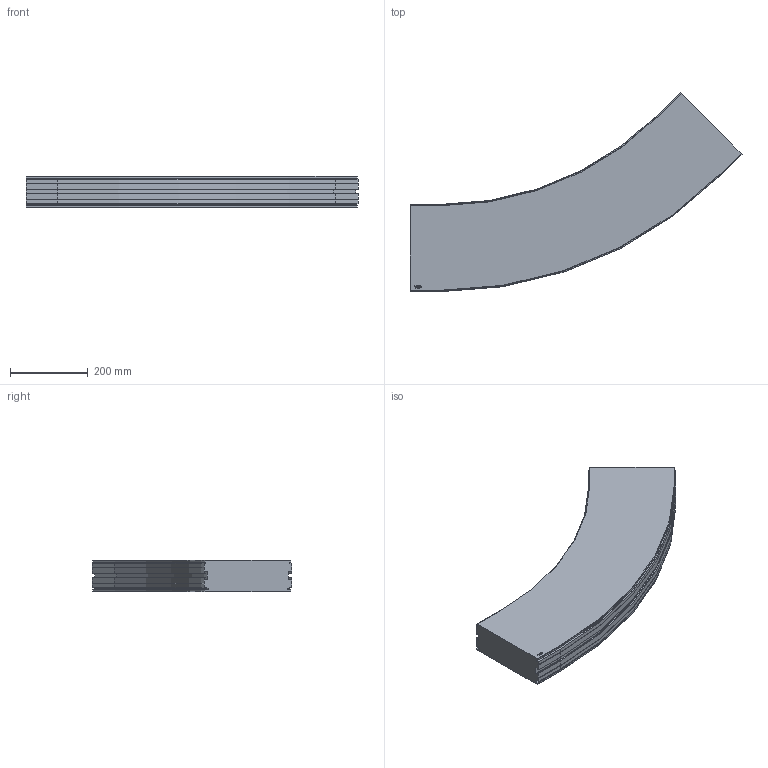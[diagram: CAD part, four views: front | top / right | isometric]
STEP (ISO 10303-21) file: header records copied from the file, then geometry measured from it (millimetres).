
FILE_DESCRIPTION(/* description */ ('GLIDKURVA SERIE 220'),/* implementation_level */ '2;1');
FILE_NAME(/* name */ '\\carryline.intra\privat\users\mathias\Desktop\Tillfälliga filer\220-5375+220-2000-01.stp',/* time_stamp */ '2018-11-29T12:54:30+01:00',/* author */ ('MD'),/* organization */ ('CARRYLINE'),/* preprocessor_version */ 'ST-DEVELOPER v17',/* originating_system */ 'Autodesk Inventor 2018',/* authorisation */ '');
FILE_SCHEMA (('AUTOMOTIVE_DESIGN { 1 0 10303 214 3 1 1 }'));
Length unit declared in the file: millimetre
Products named in the file (1): 220-5375+220-2000-01
Bounding box: 852.16 x 511.37 x 81.5 mm (x, y, z)
Volume: 15428132.7 mm3; surface area: 661164.3 mm2
Topology: 1 solids, 1 shells, 165 faces, 442 edges, 284 vertices
Faces by surface type: plane 115, cylinder 24, bspline 14, cone 12
Entity records: 5301 total; most frequent: CARTESIAN_POINT 1154, ORIENTED_EDGE 884, DIRECTION 774, EDGE_CURVE 442, LINE 358, VECTOR 358, VERTEX_POINT 284, AXIS2_PLACEMENT_3D 208
